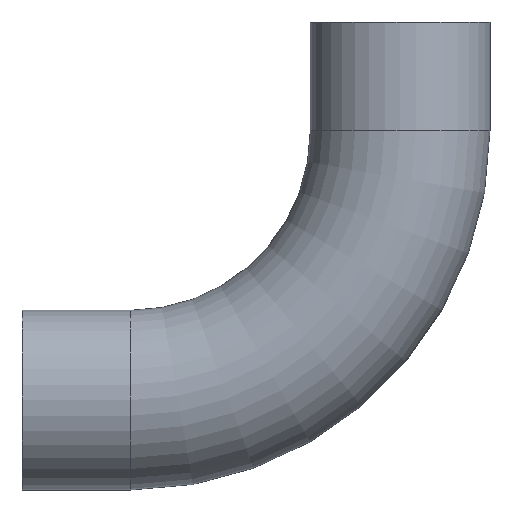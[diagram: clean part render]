
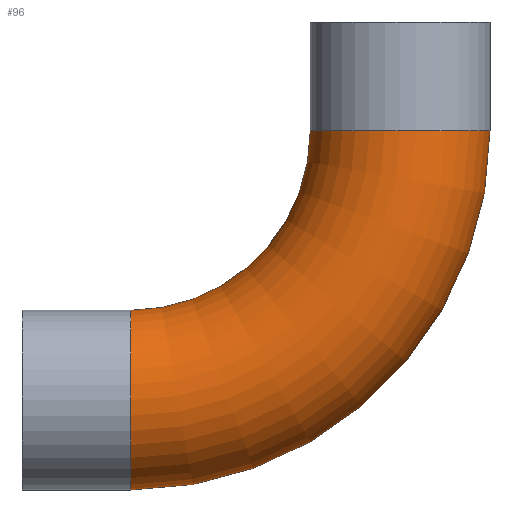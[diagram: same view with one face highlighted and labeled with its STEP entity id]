
A CAD part, front view. The second image highlights one B-rep face of the part: STEP entity #96.
In plain terms, the highlighted toroidal (fillet/blend) face has major radius 114.3 mm and minor radius 38.1 mm.
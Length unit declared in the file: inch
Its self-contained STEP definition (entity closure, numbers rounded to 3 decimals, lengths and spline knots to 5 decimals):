
#8 = VERTEX_POINT ( 'NONE', #348 ) ;
#16 = CIRCLE ( 'NONE', #285, 6. ) ;
#29 = AXIS2_PLACEMENT_3D ( 'NONE', #307, #337, #303 ) ;
#56 = ORIENTED_EDGE ( 'NONE', *, *, #325, .T. ) ;
#76 = DIRECTION ( 'NONE',  ( 1., 0., 0. ) ) ;
#79 = DIRECTION ( 'NONE',  ( 0., 0., 1. ) ) ;
#80 = CIRCLE ( 'NONE', #29, 1.5 ) ;
#84 = CARTESIAN_POINT ( 'NONE',  ( 0., 0., -1.812 ) ) ;
#86 = ORIENTED_EDGE ( 'NONE', *, *, #331, .F. ) ;
#96 = ADVANCED_FACE ( 'NONE', ( #392 ), #206, .T. ) ;
#117 = CARTESIAN_POINT ( 'NONE',  ( 1.5, 0., -1.812 ) ) ;
#129 = AXIS2_PLACEMENT_3D ( 'NONE', #449, #391, #422 ) ;
#142 = VERTEX_POINT ( 'NONE', #199 ) ;
#162 = EDGE_LOOP ( 'NONE', ( #86, #402, #423, #56 ) ) ;
#173 = AXIS2_PLACEMENT_3D ( 'NONE', #84, #79, #76 ) ;
#177 = AXIS2_PLACEMENT_3D ( 'NONE', #211, #229, #317 ) ;
#183 = CARTESIAN_POINT ( 'NONE',  ( -4.5, 0., -1.812 ) ) ;
#195 = EDGE_CURVE ( 'NONE', #355, #329, #290, .T. ) ;
#199 = CARTESIAN_POINT ( 'NONE',  ( -4.5, 0., -4.812 ) ) ;
#206 = TOROIDAL_SURFACE ( 'NONE', #177, 4.5, 1.5 ) ;
#211 = CARTESIAN_POINT ( 'NONE',  ( -4.5, 0., -1.812 ) ) ;
#229 = DIRECTION ( 'NONE',  ( 0., 1., 0. ) ) ;
#256 = DIRECTION ( 'NONE',  ( 0., 0., 1. ) ) ;
#265 = EDGE_CURVE ( 'NONE', #355, #142, #386, .T. ) ;
#278 = CARTESIAN_POINT ( 'NONE',  ( -1.5, 0., -1.812 ) ) ;
#285 = AXIS2_PLACEMENT_3D ( 'NONE', #183, #420, #256 ) ;
#290 = CIRCLE ( 'NONE', #173, 1.5 ) ;
#303 = DIRECTION ( 'NONE',  ( 0., 0., -1. ) ) ;
#307 = CARTESIAN_POINT ( 'NONE',  ( -4.5, 0., -6.312 ) ) ;
#317 = DIRECTION ( 'NONE',  ( 0., 0., 1. ) ) ;
#325 = EDGE_CURVE ( 'NONE', #142, #8, #80, .T. ) ;
#329 = VERTEX_POINT ( 'NONE', #117 ) ;
#331 = EDGE_CURVE ( 'NONE', #329, #8, #16, .T. ) ;
#337 = DIRECTION ( 'NONE',  ( 1., 0., 0. ) ) ;
#348 = CARTESIAN_POINT ( 'NONE',  ( -4.5, 0., -7.812 ) ) ;
#355 = VERTEX_POINT ( 'NONE', #278 ) ;
#386 = CIRCLE ( 'NONE', #129, 3. ) ;
#391 = DIRECTION ( 'NONE',  ( 0., 1., 0. ) ) ;
#392 = FACE_OUTER_BOUND ( 'NONE', #162, .T. ) ;
#402 = ORIENTED_EDGE ( 'NONE', *, *, #195, .F. ) ;
#420 = DIRECTION ( 'NONE',  ( 0., 1., 0. ) ) ;
#422 = DIRECTION ( 'NONE',  ( 0., 0., 1. ) ) ;
#423 = ORIENTED_EDGE ( 'NONE', *, *, #265, .T. ) ;
#449 = CARTESIAN_POINT ( 'NONE',  ( -4.5, 0., -1.812 ) ) ;
